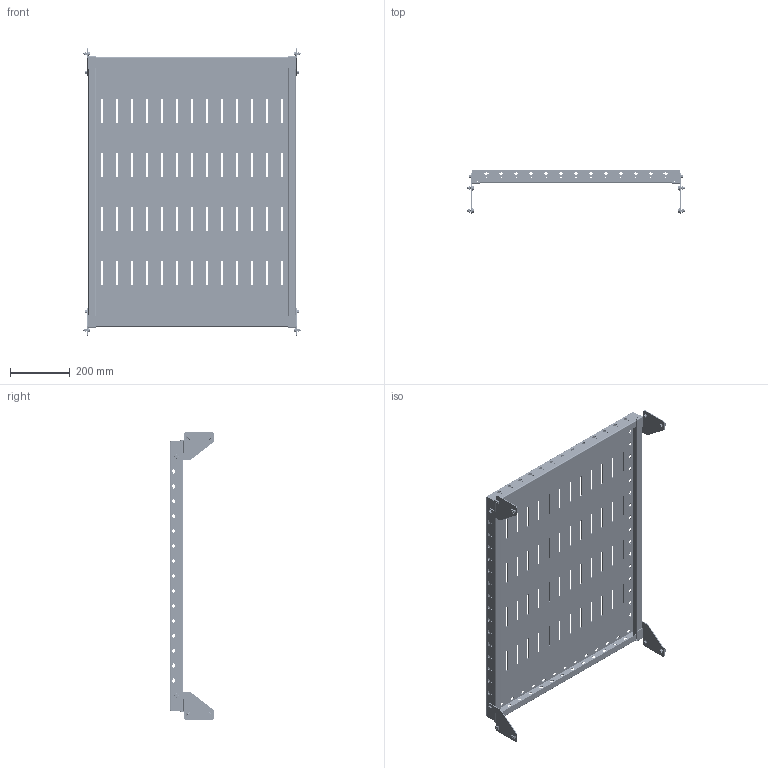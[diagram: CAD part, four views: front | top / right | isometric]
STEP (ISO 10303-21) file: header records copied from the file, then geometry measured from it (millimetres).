
FILE_DESCRIPTION (( 'STEP AP203' ), '1' );
FILE_NAME ('R5RFE810.STEP', '2022-06-29T08:41:29', ( '' ), ( '' ), 'SwSTEP 2.0', 'SolidWorks 2020', '' );
FILE_SCHEMA (( 'CONFIG_CONTROL_DESIGN' ));
Length unit declared in the file: millimetre
Products named in the file (7): RB.2364.00.00.0_08; R5RFE810; M6x16 DIN 6921 cl.8,8 Zinc_thread; RB.1704.00.00.0_- 01; RB.1704.00.00.0_-00; Ì6 D87181 Zinc_In a tightened position (1.5 mm); M6 A3400002 Zinc_thread
Assembly tree (29 placements, depth 2):
  R5RFE810
    RB.2364.00.00.0_08
    RB.1704.00.00.0_- 01  x2
    M6 A3400002 Zinc_thread  x8
    M6x16 DIN 6921 cl.8,8 Zinc_thread  x12
    RB.1704.00.00.0_-00  x2
    Ì6 D87181 Zinc_In a tightened position (1.5 mm)  x4
Bounding box: 726 x 148.6 x 965 mm (x, y, z)
Volume: 1768707.7 mm3; surface area: 1780916.3 mm2
Topology: 29 solids, 29 shells, 5914 faces, 16456 edges, 10548 vertices
Faces by surface type: cylinder 2516, plane 2010, cone 1076, bspline 216, torus 96
Entity records: 104522 total; most frequent: CARTESIAN_POINT 20281, DIRECTION 17807, ORIENTED_EDGE 17468, EDGE_CURVE 8734, AXIS2_PLACEMENT_3D 6339, VERTEX_POINT 5735, LINE 5129, VECTOR 5129
